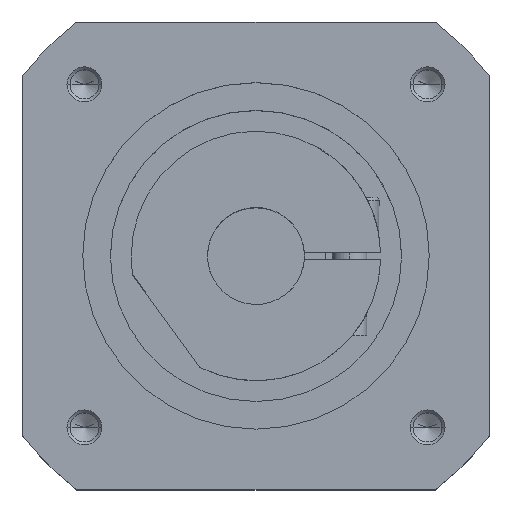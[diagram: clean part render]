
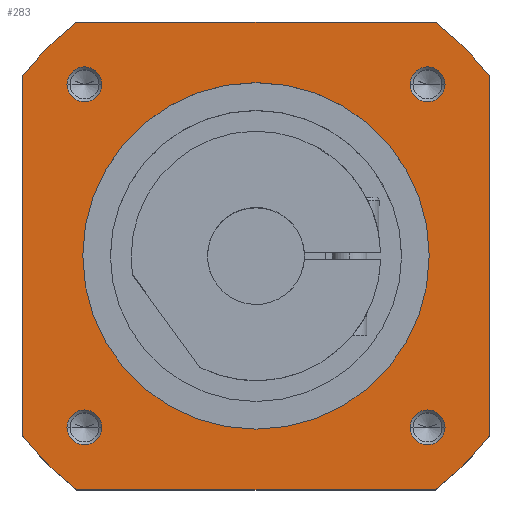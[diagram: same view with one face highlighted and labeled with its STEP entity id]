
A CAD part, top view. The second image highlights one B-rep face of the part: STEP entity #283.
In plain terms, the highlighted planar face has unit normal (0, 0, 1).
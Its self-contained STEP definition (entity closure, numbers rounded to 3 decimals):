
#66=FACE_BOUND('',#651,.T.);
#67=FACE_BOUND('',#652,.T.);
#68=FACE_BOUND('',#653,.T.);
#69=FACE_BOUND('',#654,.T.);
#70=FACE_BOUND('',#655,.T.);
#71=FACE_BOUND('',#656,.T.);
#139=PLANE('',#2850);
#283=ADVANCED_FACE('NONE',(#66,#67,#68,#69,#70,#71),#139,.T.);
#651=EDGE_LOOP('',(#1200,#1201,#1202,#1203,#1204,#1205,#1206,#1207));
#652=EDGE_LOOP('',(#1208,#1209));
#653=EDGE_LOOP('',(#1210,#1211));
#654=EDGE_LOOP('',(#1212,#1213));
#655=EDGE_LOOP('',(#1214,#1215));
#656=EDGE_LOOP('',(#1216,#1217));
#798=CIRCLE('',#2741,2.525);
#801=CIRCLE('',#2747,2.525);
#804=CIRCLE('',#2753,2.525);
#807=CIRCLE('',#2759,2.525);
#851=CIRCLE('',#2839,25.);
#852=CIRCLE('',#2841,42.5);
#853=CIRCLE('',#2842,42.5);
#854=CIRCLE('',#2843,42.5);
#855=CIRCLE('',#2844,42.5);
#856=CIRCLE('',#2845,25.);
#857=CIRCLE('',#2846,2.525);
#858=CIRCLE('',#2847,2.525);
#859=CIRCLE('',#2848,2.525);
#860=CIRCLE('',#2849,2.525);
#1200=ORIENTED_EDGE('',*,*,#2137,.T.);
#1201=ORIENTED_EDGE('',*,*,#2138,.T.);
#1202=ORIENTED_EDGE('',*,*,#2139,.T.);
#1203=ORIENTED_EDGE('',*,*,#2140,.T.);
#1204=ORIENTED_EDGE('',*,*,#2141,.T.);
#1205=ORIENTED_EDGE('',*,*,#2142,.F.);
#1206=ORIENTED_EDGE('',*,*,#2143,.T.);
#1207=ORIENTED_EDGE('',*,*,#2144,.F.);
#1208=ORIENTED_EDGE('',*,*,#2136,.F.);
#1209=ORIENTED_EDGE('',*,*,#2145,.F.);
#1210=ORIENTED_EDGE('',*,*,#2029,.F.);
#1211=ORIENTED_EDGE('',*,*,#2146,.F.);
#1212=ORIENTED_EDGE('',*,*,#2020,.F.);
#1213=ORIENTED_EDGE('',*,*,#2147,.F.);
#1214=ORIENTED_EDGE('',*,*,#2011,.F.);
#1215=ORIENTED_EDGE('',*,*,#2148,.F.);
#1216=ORIENTED_EDGE('',*,*,#2002,.F.);
#1217=ORIENTED_EDGE('',*,*,#2149,.F.);
#1764=VERTEX_POINT('',#4014);
#1766=VERTEX_POINT('',#4018);
#1771=VERTEX_POINT('',#4033);
#1773=VERTEX_POINT('',#4037);
#1778=VERTEX_POINT('',#4052);
#1780=VERTEX_POINT('',#4056);
#1785=VERTEX_POINT('',#4071);
#1787=VERTEX_POINT('',#4075);
#1857=VERTEX_POINT('',#4357);
#1858=VERTEX_POINT('',#4359);
#1859=VERTEX_POINT('',#4363);
#1860=VERTEX_POINT('',#4364);
#1861=VERTEX_POINT('',#4366);
#1862=VERTEX_POINT('',#4368);
#1863=VERTEX_POINT('',#4370);
#1864=VERTEX_POINT('',#4372);
#1865=VERTEX_POINT('',#4374);
#1866=VERTEX_POINT('',#4376);
#2002=EDGE_CURVE('NONE',#1766,#1764,#798,.T.);
#2011=EDGE_CURVE('NONE',#1773,#1771,#801,.T.);
#2020=EDGE_CURVE('NONE',#1780,#1778,#804,.T.);
#2029=EDGE_CURVE('NONE',#1787,#1785,#807,.T.);
#2136=EDGE_CURVE('NONE',#1858,#1857,#851,.T.);
#2137=EDGE_CURVE('NONE',#1859,#1860,#852,.T.);
#2138=EDGE_CURVE('NONE',#1860,#1861,#2464,.T.);
#2139=EDGE_CURVE('NONE',#1861,#1862,#853,.T.);
#2140=EDGE_CURVE('NONE',#1862,#1863,#2465,.T.);
#2141=EDGE_CURVE('NONE',#1863,#1864,#854,.T.);
#2142=EDGE_CURVE('NONE',#1865,#1864,#2466,.T.);
#2143=EDGE_CURVE('NONE',#1865,#1866,#855,.T.);
#2144=EDGE_CURVE('NONE',#1859,#1866,#2467,.T.);
#2145=EDGE_CURVE('NONE',#1857,#1858,#856,.T.);
#2146=EDGE_CURVE('NONE',#1785,#1787,#857,.T.);
#2147=EDGE_CURVE('NONE',#1778,#1780,#858,.T.);
#2148=EDGE_CURVE('NONE',#1771,#1773,#859,.T.);
#2149=EDGE_CURVE('NONE',#1764,#1766,#860,.T.);
#2464=LINE('',#4365,#2641);
#2465=LINE('',#4369,#2642);
#2466=LINE('',#4373,#2643);
#2467=LINE('',#4377,#2644);
#2641=VECTOR('',#3389,1.);
#2642=VECTOR('',#3392,1.);
#2643=VECTOR('',#3395,1.);
#2644=VECTOR('',#3398,1.);
#2741=AXIS2_PLACEMENT_3D('',#4019,#3110,#3111);
#2747=AXIS2_PLACEMENT_3D('',#4038,#3128,#3129);
#2753=AXIS2_PLACEMENT_3D('',#4057,#3146,#3147);
#2759=AXIS2_PLACEMENT_3D('',#4076,#3164,#3165);
#2839=AXIS2_PLACEMENT_3D('',#4360,#3383,#3384);
#2841=AXIS2_PLACEMENT_3D('',#4362,#3387,#3388);
#2842=AXIS2_PLACEMENT_3D('',#4367,#3390,#3391);
#2843=AXIS2_PLACEMENT_3D('',#4371,#3393,#3394);
#2844=AXIS2_PLACEMENT_3D('',#4375,#3396,#3397);
#2845=AXIS2_PLACEMENT_3D('',#4378,#3399,#3400);
#2846=AXIS2_PLACEMENT_3D('',#4379,#3401,#3402);
#2847=AXIS2_PLACEMENT_3D('',#4380,#3403,#3404);
#2848=AXIS2_PLACEMENT_3D('',#4381,#3405,#3406);
#2849=AXIS2_PLACEMENT_3D('',#4382,#3407,#3408);
#2850=AXIS2_PLACEMENT_3D('',#4383,#3409,#3410);
#3110=DIRECTION('',(0.,0.,1.));
#3111=DIRECTION('',(1.,0.,0.));
#3128=DIRECTION('',(0.,0.,1.));
#3129=DIRECTION('',(1.,0.,0.));
#3146=DIRECTION('',(0.,0.,1.));
#3147=DIRECTION('',(1.,0.,0.));
#3164=DIRECTION('',(0.,0.,1.));
#3165=DIRECTION('',(1.,0.,0.));
#3383=DIRECTION('',(0.,0.,1.));
#3384=DIRECTION('',(1.,0.,0.));
#3387=DIRECTION('',(0.,0.,1.));
#3388=DIRECTION('',(1.,0.,0.));
#3389=DIRECTION('',(0.,1.,0.));
#3390=DIRECTION('',(0.,0.,1.));
#3391=DIRECTION('',(1.,0.,0.));
#3392=DIRECTION('',(-1.,0.,0.));
#3393=DIRECTION('',(0.,0.,1.));
#3394=DIRECTION('',(1.,0.,0.));
#3395=DIRECTION('',(0.,1.,0.));
#3396=DIRECTION('',(0.,0.,1.));
#3397=DIRECTION('',(1.,0.,0.));
#3398=DIRECTION('',(-1.,0.,0.));
#3399=DIRECTION('',(0.,0.,1.));
#3400=DIRECTION('',(1.,0.,0.));
#3401=DIRECTION('',(0.,0.,1.));
#3402=DIRECTION('',(1.,0.,0.));
#3403=DIRECTION('',(0.,0.,1.));
#3404=DIRECTION('',(1.,0.,0.));
#3405=DIRECTION('',(0.,0.,1.));
#3406=DIRECTION('',(1.,0.,0.));
#3407=DIRECTION('',(0.,0.,1.));
#3408=DIRECTION('',(1.,0.,0.));
#3409=DIRECTION('',(0.,0.,1.));
#3410=DIRECTION('',(1.,0.,0.));
#4014=CARTESIAN_POINT('',(22.224,24.749,87.5));
#4018=CARTESIAN_POINT('',(27.274,24.749,87.5));
#4019=CARTESIAN_POINT('',(24.749,24.749,87.5));
#4033=CARTESIAN_POINT('',(22.224,-24.749,87.5));
#4037=CARTESIAN_POINT('',(27.274,-24.749,87.5));
#4038=CARTESIAN_POINT('',(24.749,-24.749,87.5));
#4052=CARTESIAN_POINT('',(-27.274,-24.749,87.5));
#4056=CARTESIAN_POINT('',(-22.224,-24.749,87.5));
#4057=CARTESIAN_POINT('',(-24.749,-24.749,87.5));
#4071=CARTESIAN_POINT('',(-27.274,24.749,87.5));
#4075=CARTESIAN_POINT('',(-22.224,24.749,87.5));
#4076=CARTESIAN_POINT('',(-24.749,24.749,87.5));
#4357=CARTESIAN_POINT('',(-25.,0.,87.5));
#4359=CARTESIAN_POINT('',(25.,0.,87.5));
#4360=CARTESIAN_POINT('',(0.,0.,87.5));
#4362=CARTESIAN_POINT('',(0.,0.,87.5));
#4363=CARTESIAN_POINT('',(25.83,-33.75,87.5));
#4364=CARTESIAN_POINT('',(33.75,-25.83,87.5));
#4365=CARTESIAN_POINT('',(33.75,0.,87.5));
#4366=CARTESIAN_POINT('',(33.75,25.83,87.5));
#4367=CARTESIAN_POINT('',(0.,0.,87.5));
#4368=CARTESIAN_POINT('',(25.83,33.75,87.5));
#4369=CARTESIAN_POINT('',(0.,33.75,87.5));
#4370=CARTESIAN_POINT('',(-25.83,33.75,87.5));
#4371=CARTESIAN_POINT('',(0.,0.,87.5));
#4372=CARTESIAN_POINT('',(-33.75,25.83,87.5));
#4373=CARTESIAN_POINT('',(-33.75,0.,87.5));
#4374=CARTESIAN_POINT('',(-33.75,-25.83,87.5));
#4375=CARTESIAN_POINT('',(0.,0.,87.5));
#4376=CARTESIAN_POINT('',(-25.83,-33.75,87.5));
#4377=CARTESIAN_POINT('',(0.,-33.75,87.5));
#4378=CARTESIAN_POINT('',(0.,0.,87.5));
#4379=CARTESIAN_POINT('',(-24.749,24.749,87.5));
#4380=CARTESIAN_POINT('',(-24.749,-24.749,87.5));
#4381=CARTESIAN_POINT('',(24.749,-24.749,87.5));
#4382=CARTESIAN_POINT('',(24.749,24.749,87.5));
#4383=CARTESIAN_POINT('',(0.,0.,87.5));
